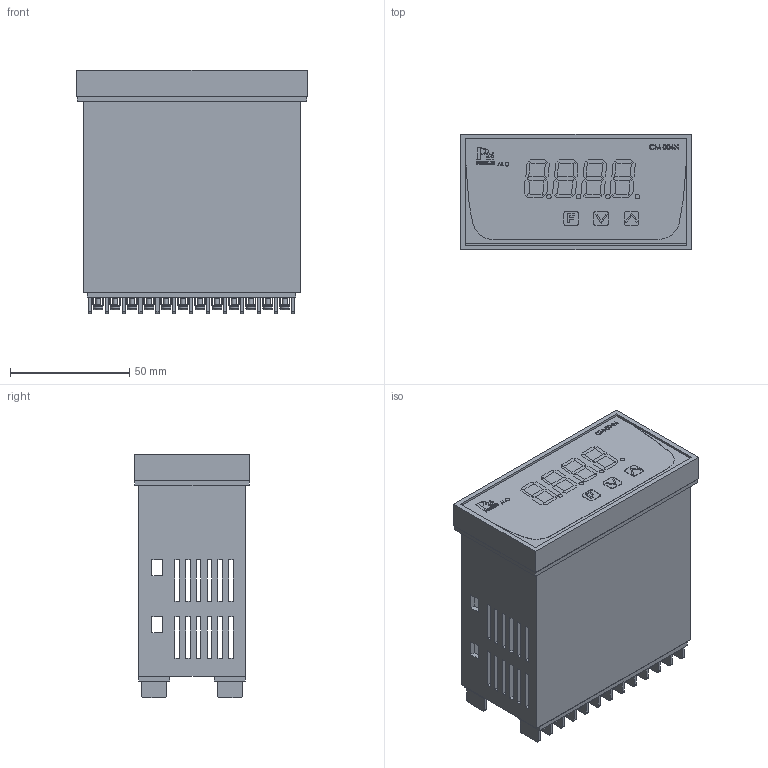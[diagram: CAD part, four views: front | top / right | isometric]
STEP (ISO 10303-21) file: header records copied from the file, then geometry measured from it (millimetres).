
FILE_DESCRIPTION (( 'STEP AP214' ), '1' );
FILE_NAME ('CM-004N.STEP', '2026-05-14T06:30:29', ( '' ), ( '' ), 'SwSTEP 2.0', 'SolidWorks 2022', '' );
FILE_SCHEMA (( 'AUTOMOTIVE_DESIGN' ));
Length unit declared in the file: millimetre
Products named in the file (1): CM-004N
Bounding box: 96.6 x 48.5 x 102 mm (x, y, z)
Volume: 72521 mm3; surface area: 83143.9 mm2
Topology: 30 solids, 31 shells, 2345 faces, 6133 edges, 4016 vertices
Faces by surface type: plane 1643, cylinder 489, torus 96, cone 72, bspline 45
Entity records: 100331 total; most frequent: CARTESIAN_POINT 15380, ORIENTED_EDGE 12266, DIRECTION 11839, EDGE_CURVE 6133, LINE 4801, VECTOR 4801, VERTEX_POINT 4016, AXIS2_PLACEMENT_3D 3519
